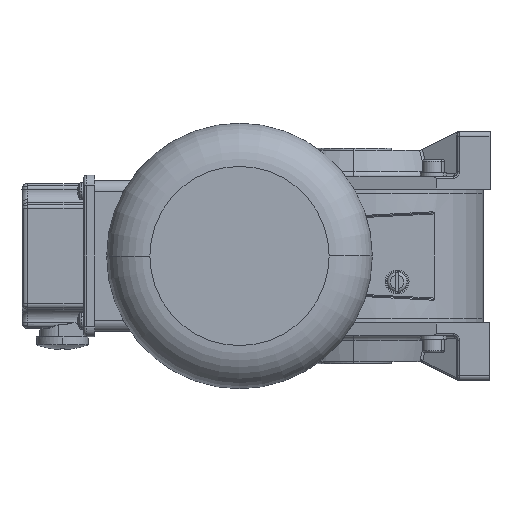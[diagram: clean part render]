
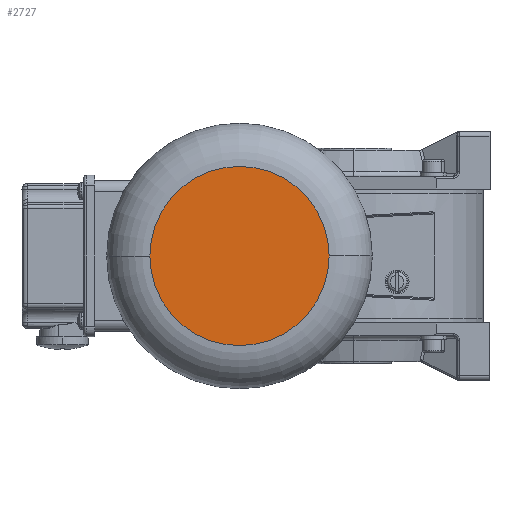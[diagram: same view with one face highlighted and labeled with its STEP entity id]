
A CAD part, left-side view. The second image highlights one B-rep face of the part: STEP entity #2727.
In plain terms, the highlighted planar face has unit normal (-1, 0, 0).
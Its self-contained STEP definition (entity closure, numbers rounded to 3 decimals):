
#352 = ORIENTED_EDGE ( 'NONE', *, *, #26923, .T. ) ;
#1806 = VERTEX_POINT ( 'NONE', #24101 ) ;
#2727 = ADVANCED_FACE ( 'NONE', ( #10644 ), #5777, .F. ) ;
#3414 = CARTESIAN_POINT ( 'NONE',  ( 0., 0., 0. ) ) ;
#3556 = DIRECTION ( 'NONE',  ( 0., 0., -1. ) ) ;
#5269 = AXIS2_PLACEMENT_3D ( 'NONE', #3414, #14801, #3556 ) ;
#5777 = PLANE ( 'NONE',  #5269 ) ;
#10644 = FACE_OUTER_BOUND ( 'NONE', #11300, .T. ) ;
#11300 = EDGE_LOOP ( 'NONE', ( #12676, #352 ) ) ;
#12676 = ORIENTED_EDGE ( 'NONE', *, *, #26869, .T. ) ;
#14801 = DIRECTION ( 'NONE',  ( 1., 0., 0. ) ) ;
#18246 = CARTESIAN_POINT ( 'NONE',  ( 0., 0., 0. ) ) ;
#18400 = DIRECTION ( 'NONE',  ( 0., 0., -1. ) ) ;
#18490 = AXIS2_PLACEMENT_3D ( 'NONE', #18836, #27826, #21189 ) ;
#18836 = CARTESIAN_POINT ( 'NONE',  ( 0., 0., 0. ) ) ;
#21189 = DIRECTION ( 'NONE',  ( 0., 0., -1. ) ) ;
#21960 = CARTESIAN_POINT ( 'NONE',  ( 0., 0., 41.5 ) ) ;
#23675 = AXIS2_PLACEMENT_3D ( 'NONE', #18246, #27224, #18400 ) ;
#24101 = CARTESIAN_POINT ( 'NONE',  ( 0., 0., -41.5 ) ) ;
#25537 = CIRCLE ( 'NONE', #18490, 41.5 ) ;
#26869 = EDGE_CURVE ( 'NONE', #1806, #28688, #27901, .T. ) ;
#26923 = EDGE_CURVE ( 'NONE', #28688, #1806, #25537, .T. ) ;
#27224 = DIRECTION ( 'NONE',  ( -1., 0., 0. ) ) ;
#27826 = DIRECTION ( 'NONE',  ( -1., 0., 0. ) ) ;
#27901 = CIRCLE ( 'NONE', #23675, 41.5 ) ;
#28688 = VERTEX_POINT ( 'NONE', #21960 ) ;
